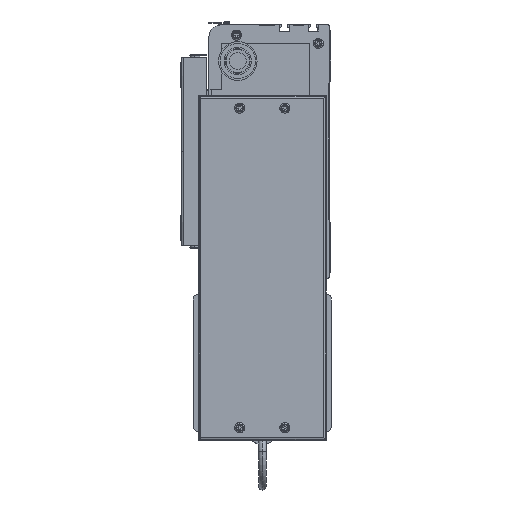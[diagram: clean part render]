
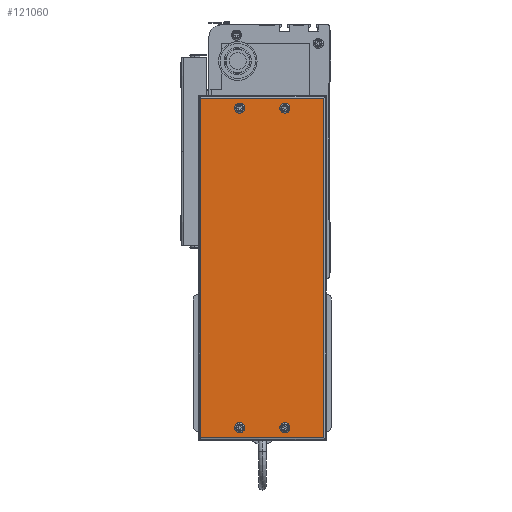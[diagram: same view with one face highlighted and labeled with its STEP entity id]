
A CAD part, left-side view. The second image highlights one B-rep face of the part: STEP entity #121060.
In plain terms, the highlighted planar face has unit normal (-1, 0, 0) as drawn and (1, 0, 0) by its records, which use the part's own axes.
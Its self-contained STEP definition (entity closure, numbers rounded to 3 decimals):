
#67615 = CARTESIAN_POINT ( 'NONE',  ( 50., 10., -66.5 ) ) ;
#68986 = DIRECTION ( 'NONE',  ( 0., 0., -1. ) ) ;
#68987 = DIRECTION ( 'NONE',  ( 1., 0., 0. ) ) ;
#68998 = CARTESIAN_POINT ( 'NONE',  ( 50., 264., -69. ) ) ;
#68999 = CARTESIAN_POINT ( 'NONE',  ( 50., 264., -66.5 ) ) ;
#69001 = AXIS2_PLACEMENT_3D ( 'NONE', #68998, #68987, #68986 ) ;
#69003 = CIRCLE ( 'NONE', #69001, 2.5 ) ;
#69059 = CARTESIAN_POINT ( 'NONE',  ( 50., 264., -30.5 ) ) ;
#69130 = CARTESIAN_POINT ( 'NONE',  ( 50., 264., -35.5 ) ) ;
#69148 = DIRECTION ( 'NONE',  ( 0., 0., -1. ) ) ;
#69149 = DIRECTION ( 'NONE',  ( 1., 0., 0. ) ) ;
#69150 = CARTESIAN_POINT ( 'NONE',  ( 50., 264., -33. ) ) ;
#69151 = AXIS2_PLACEMENT_3D ( 'NONE', #69150, #69149, #69148 ) ;
#69162 = CIRCLE ( 'NONE', #69151, 2.5 ) ;
#69163 = CARTESIAN_POINT ( 'NONE',  ( 50., 264., -71.5 ) ) ;
#69165 = DIRECTION ( 'NONE',  ( 0., 0., 1. ) ) ;
#69166 = VECTOR ( 'NONE', #69165, 1000. ) ;
#69167 = CARTESIAN_POINT ( 'NONE',  ( 50., 272., 0. ) ) ;
#69168 = LINE ( 'NONE', #69167, #69166 ) ;
#69240 = CARTESIAN_POINT ( 'NONE',  ( 50., 10., -71.5 ) ) ;
#69308 = CARTESIAN_POINT ( 'NONE',  ( 50., 272., -2. ) ) ;
#69330 = CIRCLE ( 'NONE', #69378, 2.5 ) ;
#69375 = DIRECTION ( 'NONE',  ( 0., 0., -1. ) ) ;
#69376 = DIRECTION ( 'NONE',  ( 1., 0., 0. ) ) ;
#69377 = CARTESIAN_POINT ( 'NONE',  ( 50., 10., -69. ) ) ;
#69378 = AXIS2_PLACEMENT_3D ( 'NONE', #69377, #69376, #69375 ) ;
#69628 = CARTESIAN_POINT ( 'NONE',  ( 50., 10., -33. ) ) ;
#69631 = CIRCLE ( 'NONE', #69640, 2.5 ) ;
#69640 = AXIS2_PLACEMENT_3D ( 'NONE', #69628, #69655, #69693 ) ;
#69653 = CARTESIAN_POINT ( 'NONE',  ( 50., 2., -100. ) ) ;
#69655 = DIRECTION ( 'NONE',  ( 1., 0., 0. ) ) ;
#69693 = DIRECTION ( 'NONE',  ( 0., 0., -1. ) ) ;
#69714 = CARTESIAN_POINT ( 'NONE',  ( 50., 10., -30.5 ) ) ;
#69722 = CARTESIAN_POINT ( 'NONE',  ( 50., 2., -2. ) ) ;
#69852 = CARTESIAN_POINT ( 'NONE',  ( 50., 10., -35.5 ) ) ;
#69884 = CIRCLE ( 'NONE', #69917, 2.5 ) ;
#69894 = FACE_BOUND ( 'NONE', #120910, .T. ) ;
#69896 = FACE_BOUND ( 'NONE', #121048, .T. ) ;
#69898 = CARTESIAN_POINT ( 'NONE',  ( 50., 274., -100. ) ) ;
#69899 = LINE ( 'NONE', #69898, #69955 ) ;
#69904 = FACE_OUTER_BOUND ( 'NONE', #120977, .T. ) ;
#69906 = DIRECTION ( 'NONE',  ( 0., 0., -1. ) ) ;
#69907 = DIRECTION ( 'NONE',  ( 1., 0., 0. ) ) ;
#69909 = CARTESIAN_POINT ( 'NONE',  ( 50., 264., -33. ) ) ;
#69910 = AXIS2_PLACEMENT_3D ( 'NONE', #69909, #69907, #69906 ) ;
#69911 = CIRCLE ( 'NONE', #69910, 2.5 ) ;
#69914 = DIRECTION ( 'NONE',  ( 0., 0., -1. ) ) ;
#69915 = DIRECTION ( 'NONE',  ( 1., 0., 0. ) ) ;
#69916 = CARTESIAN_POINT ( 'NONE',  ( 50., 10., -69. ) ) ;
#69917 = AXIS2_PLACEMENT_3D ( 'NONE', #69916, #69915, #69914 ) ;
#69918 = LINE ( 'NONE', #69941, #69940 ) ;
#69924 = PLANE ( 'NONE',  #69951 ) ;
#69933 = DIRECTION ( 'NONE',  ( 0., 1., 0. ) ) ;
#69938 = DIRECTION ( 'NONE',  ( 0., -1., 0. ) ) ;
#69940 = VECTOR ( 'NONE', #69938, 1000. ) ;
#69941 = CARTESIAN_POINT ( 'NONE',  ( 50., 274., -2. ) ) ;
#69944 = DIRECTION ( 'NONE',  ( 0., 0., -1. ) ) ;
#69945 = VECTOR ( 'NONE', #69944, 1000. ) ;
#69946 = CARTESIAN_POINT ( 'NONE',  ( 50., 2., 0. ) ) ;
#69947 = LINE ( 'NONE', #69946, #69945 ) ;
#69948 = DIRECTION ( 'NONE',  ( 0., 0., 1. ) ) ;
#69949 = DIRECTION ( 'NONE',  ( -1., 0., 0. ) ) ;
#69950 = CARTESIAN_POINT ( 'NONE',  ( 50., 274., 0. ) ) ;
#69951 = AXIS2_PLACEMENT_3D ( 'NONE', #69950, #69949, #69948 ) ;
#69955 = VECTOR ( 'NONE', #69933, 1000. ) ;
#69957 = CARTESIAN_POINT ( 'NONE',  ( 50., 272., -100. ) ) ;
#69959 = FACE_BOUND ( 'NONE', #120909, .T. ) ;
#69960 = FACE_BOUND ( 'NONE', #121355, .T. ) ;
#70421 = DIRECTION ( 'NONE',  ( 0., 0., -1. ) ) ;
#70422 = DIRECTION ( 'NONE',  ( 1., 0., 0. ) ) ;
#70423 = CARTESIAN_POINT ( 'NONE',  ( 50., 264., -69. ) ) ;
#70428 = CIRCLE ( 'NONE', #70437, 2.5 ) ;
#70437 = AXIS2_PLACEMENT_3D ( 'NONE', #70423, #70422, #70421 ) ;
#71295 = CARTESIAN_POINT ( 'NONE',  ( 50., 10., -33. ) ) ;
#71361 = DIRECTION ( 'NONE',  ( 0., 0., -1. ) ) ;
#71362 = DIRECTION ( 'NONE',  ( 1., 0., 0. ) ) ;
#71363 = AXIS2_PLACEMENT_3D ( 'NONE', #71295, #71362, #71361 ) ;
#71364 = CIRCLE ( 'NONE', #71363, 2.5 ) ;
#120128 = VERTEX_POINT ( 'NONE', #67615 ) ;
#120730 = EDGE_CURVE ( 'NONE', #120731, #120770, #69003, .T. ) ;
#120731 = VERTEX_POINT ( 'NONE', #68999 ) ;
#120746 = VERTEX_POINT ( 'NONE', #69130 ) ;
#120749 = VERTEX_POINT ( 'NONE', #69059 ) ;
#120762 = EDGE_CURVE ( 'NONE', #120749, #120746, #69162, .T. ) ;
#120770 = VERTEX_POINT ( 'NONE', #69163 ) ;
#120787 = EDGE_CURVE ( 'NONE', #121061, #120955, #69168, .T. ) ;
#120819 = VERTEX_POINT ( 'NONE', #69240 ) ;
#120895 = EDGE_CURVE ( 'NONE', #120128, #120819, #69330, .T. ) ;
#120909 = EDGE_LOOP ( 'NONE', ( #121347, #121055 ) ) ;
#120910 = EDGE_LOOP ( 'NONE', ( #121343, #121047 ) ) ;
#120912 = ORIENTED_EDGE ( 'NONE', *, *, #121144, .F. ) ;
#120955 = VERTEX_POINT ( 'NONE', #69308 ) ;
#120975 = VERTEX_POINT ( 'NONE', #69653 ) ;
#120977 = EDGE_LOOP ( 'NONE', ( #121062, #121068, #120993, #121065 ) ) ;
#120979 = EDGE_CURVE ( 'NONE', #121017, #121029, #69631, .T. ) ;
#120993 = ORIENTED_EDGE ( 'NONE', *, *, #121069, .T. ) ;
#121003 = VERTEX_POINT ( 'NONE', #69722 ) ;
#121017 = VERTEX_POINT ( 'NONE', #69714 ) ;
#121029 = VERTEX_POINT ( 'NONE', #69852 ) ;
#121044 = ORIENTED_EDGE ( 'NONE', *, *, #120979, .F. ) ;
#121046 = EDGE_CURVE ( 'NONE', #120819, #120128, #69884, .T. ) ;
#121047 = ORIENTED_EDGE ( 'NONE', *, *, #120895, .F. ) ;
#121048 = EDGE_LOOP ( 'NONE', ( #121342, #121044 ) ) ;
#121051 = ORIENTED_EDGE ( 'NONE', *, *, #120730, .F. ) ;
#121053 = EDGE_CURVE ( 'NONE', #120746, #120749, #69911, .T. ) ;
#121055 = ORIENTED_EDGE ( 'NONE', *, *, #120762, .F. ) ;
#121060 = ADVANCED_FACE ( 'NONE', ( #69904, #69894, #69896, #69960, #69959 ), #69924, .F. ) ;
#121061 = VERTEX_POINT ( 'NONE', #69957 ) ;
#121062 = ORIENTED_EDGE ( 'NONE', *, *, #121064, .T. ) ;
#121063 = EDGE_CURVE ( 'NONE', #121003, #120975, #69947, .T. ) ;
#121064 = EDGE_CURVE ( 'NONE', #120955, #121003, #69918, .T. ) ;
#121065 = ORIENTED_EDGE ( 'NONE', *, *, #120787, .T. ) ;
#121068 = ORIENTED_EDGE ( 'NONE', *, *, #121063, .T. ) ;
#121069 = EDGE_CURVE ( 'NONE', #120975, #121061, #69899, .T. ) ;
#121144 = EDGE_CURVE ( 'NONE', #120770, #120731, #70428, .T. ) ;
#121339 = EDGE_CURVE ( 'NONE', #121029, #121017, #71364, .T. ) ;
#121342 = ORIENTED_EDGE ( 'NONE', *, *, #121339, .F. ) ;
#121343 = ORIENTED_EDGE ( 'NONE', *, *, #121046, .F. ) ;
#121347 = ORIENTED_EDGE ( 'NONE', *, *, #121053, .F. ) ;
#121355 = EDGE_LOOP ( 'NONE', ( #120912, #121051 ) ) ;
